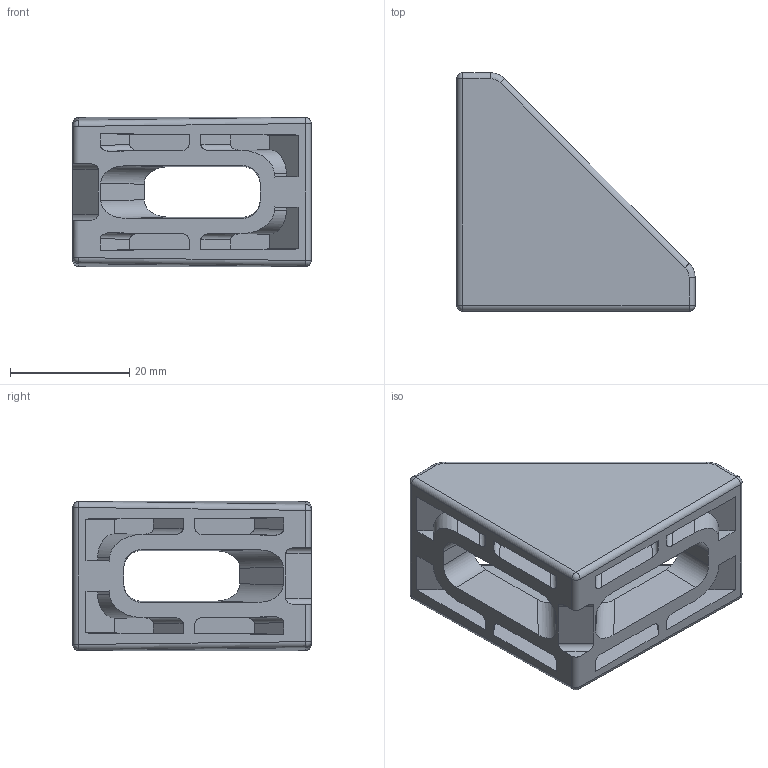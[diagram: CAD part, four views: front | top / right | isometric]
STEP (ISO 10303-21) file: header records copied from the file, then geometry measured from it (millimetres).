
FILE_DESCRIPTION (( 'STEP AP203' ), '1' );
FILE_NAME ('115.305.059.STEP', '2024-10-04T08:52:25', ( '' ), ( '' ), 'SwSTEP 2.0', 'SolidWorks 2024', '' );
FILE_SCHEMA (( 'CONFIG_CONTROL_DESIGN' ));
Length unit declared in the file: millimetre
Products named in the file (1): 115.305.059
Bounding box: 40 x 40 x 25.12 mm (x, y, z)
Volume: 12734.4 mm3; surface area: 7954.4 mm2
Topology: 1 solids, 1 shells, 146 faces, 364 edges, 226 vertices
Faces by surface type: plane 71, cylinder 53, bspline 12, sphere 10
Entity records: 4567 total; most frequent: CARTESIAN_POINT 1261, ORIENTED_EDGE 724, DIRECTION 606, EDGE_CURVE 362, LINE 232, VECTOR 232, VERTEX_POINT 226, AXIS2_PLACEMENT_3D 187
